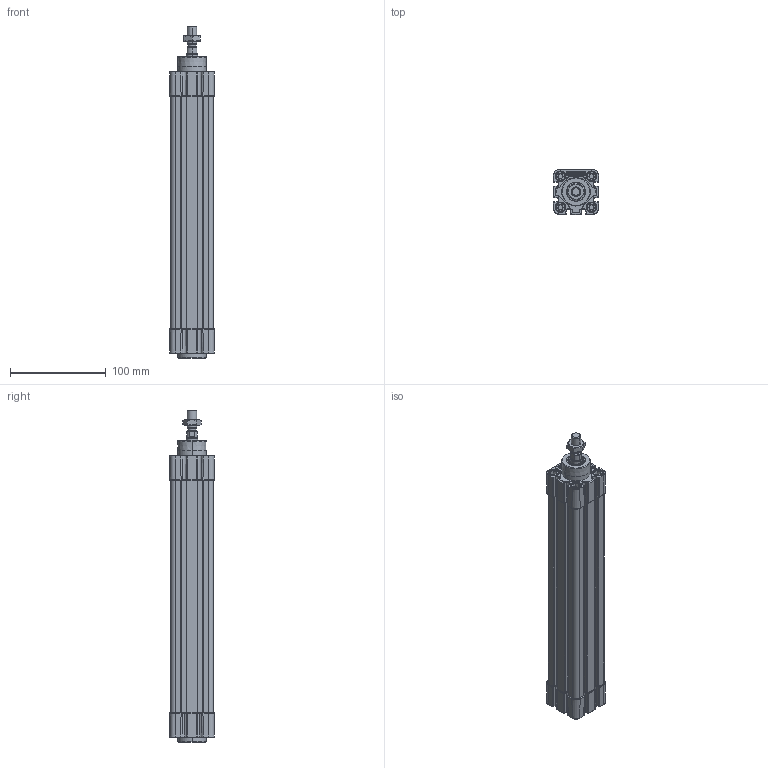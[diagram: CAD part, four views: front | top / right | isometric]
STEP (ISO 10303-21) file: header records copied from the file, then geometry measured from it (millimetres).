
FILE_DESCRIPTION (( 'STEP AP214' ), '1' );
FILE_NAME ('N11M20320200.STEP', '2021-09-27T15:32:38', ( '' ), ( '' ), 'SwSTEP 2.0', 'SolidWorks 2016', '' );
FILE_SCHEMA (( 'AUTOMOTIVE_DESIGN' ));
Length unit declared in the file: millimetre
Products named in the file (7): Pistone Ø32 ISO 15552; 000.510.0000_000.510.0200; N11M20320200; 21.A01.0000_21.A01.0200; TA Ø32 ISO 15552 WEB; 21.750.0; TP Ø32 ISO 15552 WEB
Assembly tree (6 placements, depth 2):
  N11M20320200
    TP Ø32 ISO 15552 WEB
    TA Ø32 ISO 15552 WEB
    Pistone Ø32 ISO 15552
    000.510.0000_000.510.0200
    21.A01.0000_21.A01.0200
    21.750.0
Bounding box: 47.07 x 47.07 x 347 mm (x, y, z)
Volume: 366843.7 mm3; surface area: 172816.7 mm2
Topology: 18 solids, 18 shells, 1629 faces, 4093 edges, 2585 vertices
Faces by surface type: plane 811, cylinder 468, cone 178, torus 98, bspline 74
Entity records: 65607 total; most frequent: CARTESIAN_POINT 10028, DIRECTION 8447, ORIENTED_EDGE 8186, EDGE_CURVE 4093, AXIS2_PLACEMENT_3D 2992, VERTEX_POINT 2585, LINE 2463, VECTOR 2463
